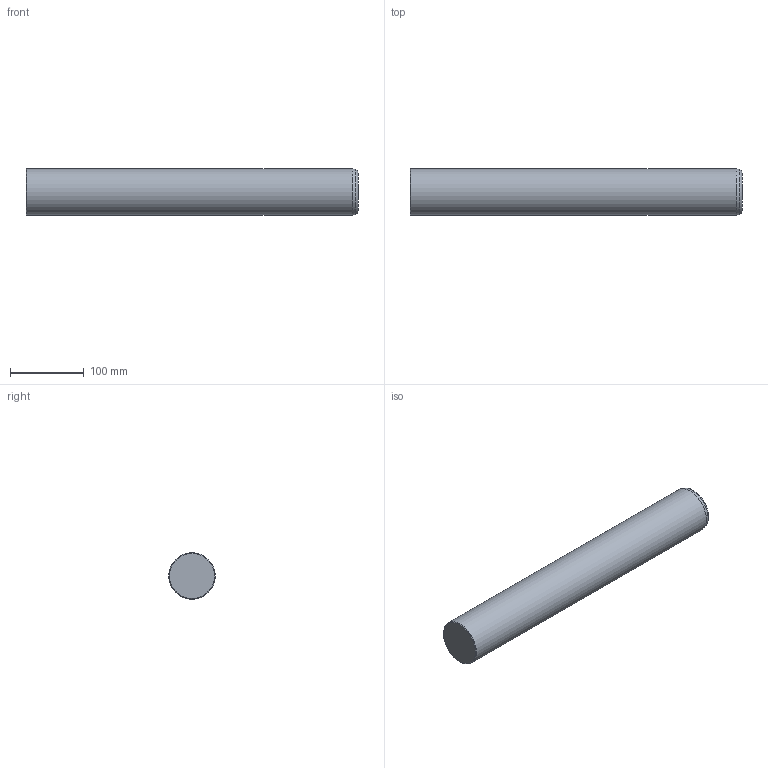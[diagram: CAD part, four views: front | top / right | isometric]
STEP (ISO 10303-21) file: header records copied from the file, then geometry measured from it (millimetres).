
FILE_DESCRIPTION(/* description */ ('Impex Ready, www.impex-ready.pl'),/* implementation_level */ '2;1');
FILE_NAME(/* name */ 'C:\Users\VIKKY\Nextcloud\SM\projekt 10 - części na stronę internetową\Pliki_3D_new\256 CIS Słup\256 CIS_STEP\CIS63450.ipt.step',/* time_stamp */ '2021-12-20T12:49:23+01:00',/* author */ ('SM'),/* organization */ (''),/* preprocessor_version */ 'ST-DEVELOPER v18.1',/* originating_system */ 'Autodesk Inventor 2021',/* authorisation */ '');
FILE_SCHEMA (('AUTOMOTIVE_DESIGN { 1 0 10303 214 3 1 1 }'));
Length unit declared in the file: millimetre
Products named in the file (1): CIS63450
Bounding box: 450 x 63 x 63 mm (x, y, z)
Volume: 1400578.3 mm3; surface area: 94569.2 mm2
Topology: 1 solids, 1 shells, 6 faces, 12 edges, 8 vertices
Faces by surface type: cone 2, plane 2, torus 1, cylinder 1
Full cylindrical faces by diameter (mm): 63 x1
Entity records: 239 total; most frequent: DIRECTION 35, CARTESIAN_POINT 27, ORIENTED_EDGE 24, AXIS2_PLACEMENT_3D 16, EDGE_CURVE 12, CIRCLE 9, VERTEX_POINT 8, STYLED_ITEM 7
